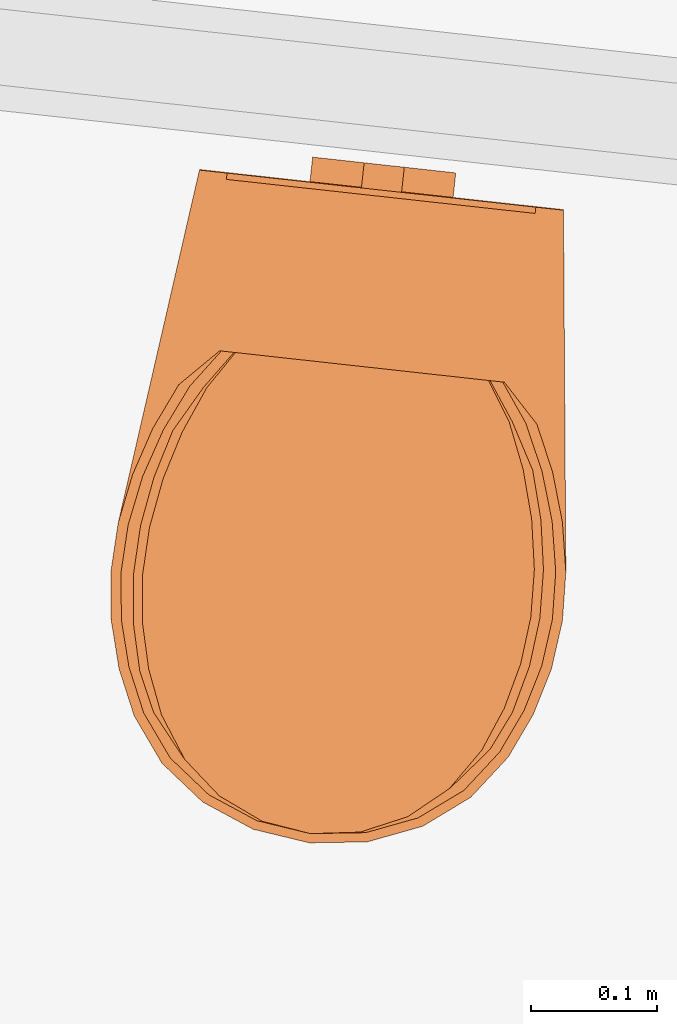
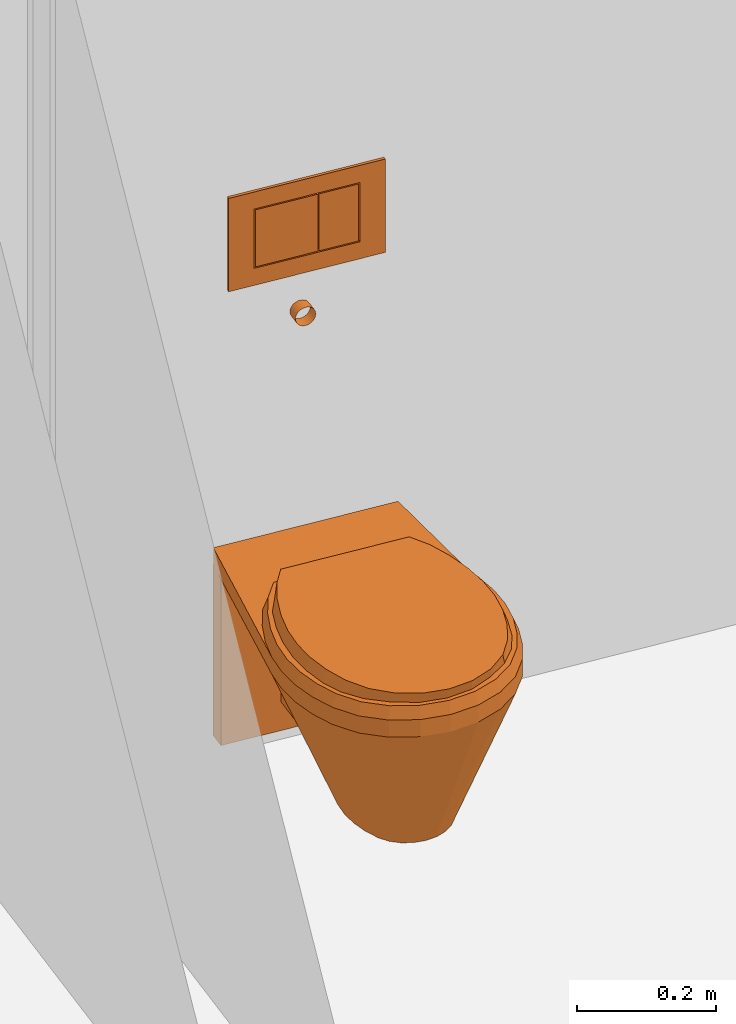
# One storey, part 69 of 79: 1 proxy.
"""IFC2X3 building model written with IfcOpenShell, lengths in metres."""

from ifc_helpers import new_model, entity, si_unit, converted_unit, derived_unit, money_unit, direction, frame, origin_with_axes, place, context, subcontext, project, spatial, open_shell, faceted_brep, surface_model, material, type_object, element, save


model = new_model("IFC2X3")

# Units and contexts
model_context = context("Model", 3, precision=1e-05, world=origin_with_axes(), true_north=direction((0.0, 1.0)))
body_context = subcontext(model_context, "Body", "Model", "MODEL_VIEW")
ifc_project = project(units=[si_unit("LENGTHUNIT", "METRE"), si_unit("AREAUNIT", "SQUARE_METRE"), si_unit("VOLUMEUNIT", "CUBIC_METRE"), converted_unit("PLANEANGLEUNIT", "DEGREE", entity("IfcPlaneAngleMeasure", 0.0174532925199), si_unit("PLANEANGLEUNIT", "RADIAN"), dimensions=[0, 0, 0, 0, 0, 0, 0]), money_unit("CHF"), converted_unit("TIMEUNIT", "Year", entity("IfcTimeMeasure", 31556926.0), si_unit("TIMEUNIT", "SECOND"), dimensions=[0, 0, 1, 0, 0, 0, 0]), si_unit("MASSUNIT", "GRAM", prefix="KILO"), si_unit("THERMODYNAMICTEMPERATUREUNIT", "DEGREE_CELSIUS"), si_unit("LUMINOUSINTENSITYUNIT", "LUMEN"), si_unit("ENERGYUNIT", "JOULE", prefix="MEGA"), derived_unit("THERMALCONDUCTANCEUNIT", [(si_unit("POWERUNIT", "WATT"), 1), (si_unit("LENGTHUNIT", "METRE"), -1), (si_unit("THERMODYNAMICTEMPERATUREUNIT", "KELVIN"), -1)]), derived_unit("SPECIFICHEATCAPACITYUNIT", [(si_unit("ENERGYUNIT", "JOULE"), 1), (si_unit("MASSUNIT", "GRAM", prefix="KILO"), -1), (si_unit("THERMODYNAMICTEMPERATUREUNIT", "KELVIN"), -1)]), derived_unit("MASSDENSITYUNIT", [(si_unit("MASSUNIT", "GRAM", prefix="KILO"), 1), (si_unit("VOLUMEUNIT", "CUBIC_METRE"), -1)])], contexts=[model_context])

# Site, building, storey
site_placement = place(None, frame((0.0, 0.0, 0.0), z_axis=(0.0, 0.0, 1.0), x_axis=(-0.177771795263, -0.984071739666, 0.0)))
site = spatial("IfcSite", under=ifc_project, at=site_placement, Name="Site", CompositionType="ELEMENT")
building_placement = place(site_placement, origin_with_axes())
building = spatial("IfcBuilding", under=site, at=building_placement, Name="Bâtiment", CompositionType="ELEMENT")
storey_placement = place(building_placement, origin_with_axes())
storey = spatial("IfcBuildingStorey", under=building, at=storey_placement, Name="RDC", CompositionType="ELEMENT", Elevation=0.0)

# Proxy
ifc_material = material(Name="Matériau de construction IFC")
building_element_proxy_type = type_object("IfcBuildingElementProxyType", Name="WC 21", PredefinedType="NOTDEFINED")
proxy_placement = place(storey_placement, frame((103.536502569, -150.019253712, -0.00175522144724), z_axis=(0.0, 0.0, 1.0), x_axis=(-0.0688268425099, 0.997628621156, 0.0)))
element("IfcBuildingElementProxy", 1, at=proxy_placement, inside=storey, type_object=building_element_proxy_type, material=ifc_material, Name="WC-hall", context=body_context, shape_type="SurfaceModel", body=[
    surface_model("IfcShellBasedSurfaceModel", [(0.0, 0.0, 0.739), (-0.00414110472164, 0.0, 0.739545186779), (-0.00414110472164, 0.02, 0.739545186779), (0.0, 0.02, 0.739), (-0.008, 0.0, 0.741143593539), (-0.008, 0.02, 0.741143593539), (0.00414110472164, 0.0, 0.739545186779), (0.00414110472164, 0.02, 0.739545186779), (-0.011313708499, 0.0, 0.743686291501), (-0.011313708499, 0.02, 0.743686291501), (0.008, 0.0, 0.741143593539), (0.008, 0.02, 0.741143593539), (-0.0138564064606, 0.0, 0.747), (-0.0138564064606, 0.02, 0.747), (0.011313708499, 0.0, 0.743686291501), (0.011313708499, 0.02, 0.743686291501), (-0.0154548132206, 0.0, 0.750858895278), (-0.0154548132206, 0.02, 0.750858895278), (0.0138564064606, 0.0, 0.747), (0.0138564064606, 0.02, 0.747), (-0.016, 0.0, 0.755), (-0.016, 0.02, 0.755), (0.0154548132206, 0.0, 0.750858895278), (0.0154548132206, 0.02, 0.750858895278), (-0.0154548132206, 0.0, 0.759141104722), (-0.0154548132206, 0.02, 0.759141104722), (0.016, 0.0, 0.755), (0.016, 0.02, 0.755), (-0.0138564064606, 0.0, 0.763), (-0.0138564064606, 0.02, 0.763), (0.0154548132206, 0.0, 0.759141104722), (0.0154548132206, 0.02, 0.759141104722), (-0.011313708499, 0.0, 0.766313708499), (-0.011313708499, 0.02, 0.766313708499), (0.0138564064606, 0.0, 0.763), (0.0138564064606, 0.02, 0.763), (-0.008, 0.0, 0.768856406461), (-0.008, 0.02, 0.768856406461), (0.011313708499, 0.0, 0.766313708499), (0.011313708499, 0.02, 0.766313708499), (-0.00414110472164, 0.0, 0.770454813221), (-0.00414110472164, 0.02, 0.770454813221), (0.008, 0.0, 0.768856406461), (0.008, 0.02, 0.768856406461), (0.0, 0.0, 0.771), (0.0, 0.02, 0.771), (0.00414110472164, 0.0, 0.770454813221), (0.00414110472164, 0.02, 0.770454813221)], [open_shell([[[0, 1, 2, 3]], [[1, 4, 5, 2]], [[6, 0, 3, 7]], [[4, 8, 9, 5]], [[10, 6, 7, 11]], [[8, 12, 13, 9]], [[14, 10, 11, 15]], [[12, 16, 17, 13]], [[18, 14, 15, 19]], [[16, 20, 21, 17]], [[22, 18, 19, 23]], [[20, 24, 25, 21]], [[26, 22, 23, 27]], [[24, 28, 29, 25]], [[30, 26, 27, 31]], [[28, 32, 33, 29]], [[34, 30, 31, 35]], [[32, 36, 37, 33]], [[38, 34, 35, 39]], [[36, 40, 41, 37]], [[42, 38, 39, 43]], [[40, 44, 45, 41]], [[46, 42, 43, 47]], [[44, 46, 47, 45]]])]),
    surface_model("IfcShellBasedSurfaceModel", [(0.0, 0.0, 0.148128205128), (-0.0147526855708, 0.0, 0.15007043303), (-0.0147526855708, 0.02, 0.15007043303), (0.0, 0.02, 0.148128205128), (-0.0285, 0.0, 0.155764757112), (-0.0285, 0.02, 0.155764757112), (0.0147526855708, 0.0, 0.15007043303), (0.0147526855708, 0.02, 0.15007043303), (-0.0403050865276, 0.0, 0.1648231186), (-0.0403050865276, 0.02, 0.1648231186), (0.0285, 0.0, 0.155764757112), (0.0285, 0.02, 0.155764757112), (-0.0493634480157, 0.0, 0.176628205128), (-0.0493634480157, 0.02, 0.176628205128), (0.0403050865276, 0.0, 0.1648231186), (0.0403050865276, 0.02, 0.1648231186), (-0.0550577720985, 0.0, 0.190375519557), (-0.0550577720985, 0.02, 0.190375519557), (0.0493634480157, 0.0, 0.176628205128), (0.0493634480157, 0.02, 0.176628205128), (-0.057, 0.0, 0.205128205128), (-0.057, 0.02, 0.205128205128), (0.0550577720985, 0.0, 0.190375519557), (0.0550577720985, 0.02, 0.190375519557), (-0.0550577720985, 0.0, 0.219880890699), (-0.0550577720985, 0.02, 0.219880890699), (0.057, 0.0, 0.205128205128), (0.057, 0.02, 0.205128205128), (-0.0493634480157, 0.0, 0.233628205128), (-0.0493634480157, 0.02, 0.233628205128), (0.0550577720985, 0.0, 0.219880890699), (0.0550577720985, 0.02, 0.219880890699), (-0.0403050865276, 0.0, 0.245433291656), (-0.0403050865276, 0.02, 0.245433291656), (0.0493634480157, 0.0, 0.233628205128), (0.0493634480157, 0.02, 0.233628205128), (-0.0285, 0.0, 0.254491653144), (-0.0285, 0.02, 0.254491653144), (0.0403050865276, 0.0, 0.245433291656), (0.0403050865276, 0.02, 0.245433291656), (-0.0147526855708, 0.0, 0.260185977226), (-0.0147526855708, 0.02, 0.260185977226), (0.0285, 0.0, 0.254491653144), (0.0285, 0.02, 0.254491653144), (0.0, 0.0, 0.262128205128), (0.0, 0.02, 0.262128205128), (0.0147526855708, 0.0, 0.260185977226), (0.0147526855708, 0.02, 0.260185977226)], [open_shell([[[0, 1, 2, 3]], [[1, 4, 5, 2]], [[6, 0, 3, 7]], [[4, 8, 9, 5]], [[10, 6, 7, 11]], [[8, 12, 13, 9]], [[14, 10, 11, 15]], [[12, 16, 17, 13]], [[18, 14, 15, 19]], [[16, 20, 21, 17]], [[22, 18, 19, 23]], [[20, 24, 25, 21]], [[26, 22, 23, 27]], [[24, 28, 29, 25]], [[30, 26, 27, 31]], [[28, 32, 33, 29]], [[34, 30, 31, 35]], [[32, 36, 37, 33]], [[38, 34, 35, 39]], [[36, 40, 41, 37]], [[42, 38, 39, 43]], [[40, 44, 45, 41]], [[46, 42, 43, 47]], [[44, 46, 47, 45]]])]),
    faceted_brep([(0.145057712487, -0.0272244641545, 0.06), (-0.145057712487, -0.0272244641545, 0.06), (-0.145057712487, 0.0004595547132, 0.06), (0.145057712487, 0.0004595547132, 0.06), (0.145057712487, -0.0272244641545, 0.36), (-0.145057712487, -0.0272244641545, 0.36), (-0.145057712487, 0.0004595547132, 0.36), (0.145057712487, 0.0004595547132, 0.36)], [[[0, 1, 2, 3]], [[1, 0, 4, 5]], [[2, 1, 5, 6]], [[3, 2, 6, 7]], [[0, 3, 7, 4]], [[5, 4, 7, 6]]]),
    faceted_brep([(0.0, -0.0658279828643, 0.36), (0.0300581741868, -0.0690301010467, 0.36), (0.0503672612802, -0.0757649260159, 0.36), (0.0503672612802, -0.0272244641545, 0.36), (-0.0503672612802, -0.0272244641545, 0.36), (-0.0503672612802, -0.0757649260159, 0.36), (-0.0300581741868, -0.0690301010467, 0.36), (0.0140927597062, -0.0974542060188, 0.11), (0.0503672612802, -0.0848914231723, 0.295928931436), (0.0267329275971, -0.103538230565, 0.11), (0.0503672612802, -0.123434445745, 0.140834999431), (0.0503672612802, -0.151232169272, 0.11), (0.0503672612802, -0.0272244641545, 0.11), (0.0503672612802, -0.0913032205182, 0.267009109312), (0.0503672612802, -0.107345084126, 0.182796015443), (0.0503672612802, -0.119007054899, 0.156474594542), (-0.0503672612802, -0.0272244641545, 0.11), (-0.0503672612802, -0.0819473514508, 0.314161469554), (-0.0503672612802, -0.151232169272, 0.11), (-0.0503672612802, -0.127176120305, 0.131313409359), (-0.0503672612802, -0.123434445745, 0.140834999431), (-0.0503672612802, -0.113127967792, 0.160496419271), (-0.0503672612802, -0.107345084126, 0.182796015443), (-0.0503672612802, -0.099438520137, 0.213462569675), (-0.0503672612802, -0.0848914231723, 0.295928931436), (-0.0140927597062, -0.0974542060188, 0.11), (0.0, -0.0953539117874, 0.11), (0.0366159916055, -0.112978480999, 0.11), (0.0427235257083, -0.124801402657, 0.11), (-0.0427235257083, -0.124801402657, 0.11), (-0.0267329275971, -0.103538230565, 0.11), (-0.0366159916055, -0.112978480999, 0.11)], [[[0, 1, 2, 3, 4, 5, 6]], [[1, 0, 7]], [[8, 2, 1, 9]], [[10, 11, 12, 3, 2, 8, 13, 14, 15]], [[3, 12, 16, 4]], [[17, 5, 4, 16, 18, 19, 20, 21, 22, 23, 24]], [[6, 5, 17, 25]], [[0, 6, 26]], [[26, 7, 0]], [[7, 9, 1]], [[13, 8, 9, 27]], [[11, 10, 28]], [[29, 18, 16, 12, 11, 28, 27, 9, 7, 26, 25, 30, 31]], [[14, 13, 27]], [[15, 14, 27, 28]], [[10, 15, 28]], [[18, 29, 19]], [[20, 19, 29]], [[29, 31, 21, 20]], [[22, 21, 31]], [[31, 30, 23, 22]], [[24, 23, 30]], [[30, 25, 17, 24]], [[25, 26, 6]]]),
    surface_model("IfcShellBasedSurfaceModel", [(0.0181966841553, -0.426233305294, 0.11), (0.0350002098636, -0.419424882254, 0.11), (0.0876158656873, -0.497127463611, 0.36), (0.0, -0.428561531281, 0.11), (-0.0181966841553, -0.426233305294, 0.11), (-0.0350002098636, -0.419424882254, 0.11), (-0.0491231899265, -0.408658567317, 0.11), (-0.0594847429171, -0.394759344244, 0.11), (-0.0701797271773, -0.370888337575, 0.11), (-0.0770850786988, -0.345873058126, 0.11), (-0.0800627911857, -0.320214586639, 0.11), (-0.0790534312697, -0.294427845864, 0.11), (-0.0730013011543, -0.251517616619, 0.11), (-0.064918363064, -0.208889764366, 0.11), (-0.0548187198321, -0.166624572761, 0.11), (-0.0427235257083, -0.124801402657, 0.11), (-0.0366159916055, -0.112978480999, 0.11), (-0.0267329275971, -0.103538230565, 0.11), (-0.0140927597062, -0.0974542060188, 0.11), (0.0, -0.0953539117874, 0.11), (0.0140927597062, -0.0974542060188, 0.11), (0.0267329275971, -0.103538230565, 0.11), (0.0366159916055, -0.112978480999, 0.11), (0.0427235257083, -0.124801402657, 0.11), (0.0548187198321, -0.166624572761, 0.11), (0.064918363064, -0.208889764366, 0.11), (0.0730013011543, -0.251517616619, 0.11), (0.0790534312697, -0.294427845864, 0.11), (0.0800627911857, -0.320213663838, 0.11), (0.0770850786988, -0.345873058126, 0.11), (0.0701797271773, -0.370888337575, 0.11), (0.0594847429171, -0.394759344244, 0.11), (0.0491231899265, -0.408658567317, 0.11), (0.12297066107, -0.470176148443, 0.36), (0.0455521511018, -0.514170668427, 0.36), (0.0, -0.52, 0.36), (-0.0455521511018, -0.514170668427, 0.36), (-0.0876158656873, -0.497127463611, 0.36), (-0.12297066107, -0.470176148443, 0.36), (-0.14890980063, -0.435381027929, 0.36), (-0.164971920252, -0.399527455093, 0.36), (-0.17534455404, -0.361954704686, 0.36), (-0.179817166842, -0.323416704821, 0.36), (-0.178300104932, -0.284685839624, 0.36), (-0.169520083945, -0.238917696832, 0.36), (-0.154120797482, -0.194641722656, 0.36), (-0.132382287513, -0.152656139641, 0.36), (-0.104696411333, -0.113718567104, 0.36), (-0.083841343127, -0.0936319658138, 0.36), (-0.0585116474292, -0.0784657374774, 0.36), (-0.0300581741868, -0.0690301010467, 0.36), (0.0, -0.0658279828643, 0.36), (0.0300581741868, -0.0690301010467, 0.36), (0.0585116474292, -0.0784657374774, 0.36), (0.083841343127, -0.0936319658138, 0.36), (0.104696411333, -0.113718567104, 0.36), (0.132382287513, -0.152656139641, 0.36), (0.154120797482, -0.194641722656, 0.36), (0.169520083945, -0.238918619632, 0.36), (0.178300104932, -0.284685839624, 0.36), (0.179817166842, -0.323416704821, 0.36), (0.17534455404, -0.361954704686, 0.36), (0.164972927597, -0.399527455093, 0.36), (0.14890980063, -0.435381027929, 0.36)], [open_shell([[[0, 1, 2]], [[0, 3, 4, 5, 6, 7, 8, 9, 10, 11, 12, 13, 14, 15, 16, 17, 18, 19, 20, 21, 22, 23, 24, 25, 26, 27, 28, 29, 30, 31, 32, 1]], [[1, 33, 2]], [[0, 2, 34]], [[3, 0, 34]], [[4, 3, 35]], [[5, 4, 36]], [[6, 5, 37]], [[7, 6, 38]], [[8, 7, 39]], [[9, 8, 40]], [[10, 9, 41]], [[11, 10, 42]], [[12, 11, 43]], [[13, 12, 44]], [[14, 13, 45]], [[15, 14, 46]], [[16, 15, 47]], [[17, 16, 48]], [[18, 17, 49]], [[19, 18, 50]], [[20, 19, 51]], [[21, 20, 52]], [[22, 21, 53]], [[23, 22, 54]], [[24, 23, 55]], [[25, 24, 56]], [[26, 25, 57]], [[27, 26, 58]], [[28, 27, 59]], [[29, 28, 60]], [[30, 29, 61]], [[31, 30, 62]], [[32, 31, 63]], [[1, 32, 33]], [[3, 34, 35]], [[4, 35, 36]], [[5, 36, 37]], [[6, 37, 38]], [[7, 38, 39]], [[8, 39, 40]], [[9, 40, 41]], [[10, 41, 42]], [[11, 42, 43]], [[12, 43, 44]], [[13, 44, 45]], [[14, 45, 46]], [[15, 46, 47]], [[16, 47, 48]], [[17, 48, 49]], [[18, 49, 50]], [[19, 50, 51]], [[20, 51, 52]], [[21, 52, 53]], [[22, 53, 54]], [[23, 54, 55]], [[24, 55, 56]], [[25, 56, 57]], [[26, 57, 58]], [[27, 58, 59]], [[28, 59, 60]], [[29, 60, 61]], [[30, 61, 62]], [[31, 62, 63]], [[32, 63, 33]]])]),
    faceted_brep([(-0.178300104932, -0.284685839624, 0.36), (-0.179817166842, -0.323416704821, 0.36), (-0.179817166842, -0.323416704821, 0.39), (-0.178300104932, -0.284685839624, 0.39), (-0.145001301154, 0.0, 0.36), (0.145003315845, 0.0, 0.36), (0.178300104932, -0.284685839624, 0.36), (0.179817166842, -0.323416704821, 0.36), (0.17534455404, -0.361954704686, 0.36), (0.164972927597, -0.399527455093, 0.36), (0.14890980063, -0.435381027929, 0.36), (0.12297066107, -0.470176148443, 0.36), (0.0876158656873, -0.497127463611, 0.36), (0.0455521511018, -0.514170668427, 0.36), (0.0, -0.52, 0.36), (-0.0455521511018, -0.514170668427, 0.36), (-0.0876158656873, -0.497127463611, 0.36), (-0.12297066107, -0.470176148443, 0.36), (-0.14890980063, -0.435381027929, 0.36), (-0.164971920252, -0.399527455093, 0.36), (-0.17534455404, -0.361954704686, 0.36), (0.148630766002, -0.287598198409, 0.36), (0.133085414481, -0.239834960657, 0.36), (0.0999105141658, -0.200331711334, 0.36), (0.0534990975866, -0.174321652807, 0.36), (0.0, -0.165251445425, 0.36), (-0.0534990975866, -0.174321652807, 0.36), (-0.0999105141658, -0.200331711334, 0.36), (-0.133085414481, -0.239834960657, 0.36), (-0.148630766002, -0.287598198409, 0.36), (-0.149995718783, -0.322458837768, 0.36), (-0.145969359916, -0.357146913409, 0.36), (-0.13663429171, -0.390965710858, 0.36), (-0.122175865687, -0.423236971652, 0.36), (-0.100894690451, -0.451785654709, 0.36), (-0.0718871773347, -0.47389872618, 0.36), (-0.0373745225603, -0.48788192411, 0.36), (0.0, -0.49266479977, 0.36), (0.0373745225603, -0.48788192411, 0.36), (0.0718871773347, -0.47389872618, 0.36), (0.100894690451, -0.451785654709, 0.36), (0.122175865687, -0.423236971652, 0.36), (0.13663429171, -0.390965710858, 0.36), (0.145969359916, -0.357146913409, 0.36), (0.149995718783, -0.322458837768, 0.36), (-0.17534455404, -0.361954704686, 0.39), (-0.164971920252, -0.399527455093, 0.39), (-0.14890980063, -0.435381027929, 0.39), (-0.12297066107, -0.470176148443, 0.39), (-0.0876158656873, -0.497127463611, 0.39), (-0.0455521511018, -0.514170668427, 0.39), (0.0, -0.52, 0.39), (0.0455521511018, -0.514170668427, 0.39), (0.0876158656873, -0.497127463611, 0.39), (0.12297066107, -0.470176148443, 0.39), (0.14890980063, -0.435381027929, 0.39), (0.164972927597, -0.399527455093, 0.39), (0.17534455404, -0.361954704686, 0.39), (0.179817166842, -0.323416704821, 0.39), (0.178300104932, -0.284685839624, 0.39), (0.145003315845, 0.0, 0.39), (-0.145001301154, 0.0, 0.39), (0.148630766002, -0.287598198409, 0.39), (0.149995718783, -0.322458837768, 0.39), (0.145969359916, -0.357146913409, 0.39), (0.13663429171, -0.390965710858, 0.39), (0.122175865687, -0.423236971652, 0.39), (0.100894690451, -0.451785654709, 0.39), (0.0718871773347, -0.47389872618, 0.39), (0.0373745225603, -0.48788192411, 0.39), (0.0, -0.49266479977, 0.39), (-0.0373745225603, -0.48788192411, 0.39), (-0.0718871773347, -0.47389872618, 0.39), (-0.100894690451, -0.451785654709, 0.39), (-0.122175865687, -0.423236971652, 0.39), (-0.13663429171, -0.390965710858, 0.39), (-0.145969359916, -0.357146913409, 0.39), (-0.149995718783, -0.322458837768, 0.39), (-0.148630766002, -0.287598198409, 0.39), (-0.133085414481, -0.239834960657, 0.39), (-0.0999105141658, -0.200331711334, 0.39), (-0.0534990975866, -0.174321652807, 0.39), (0.0, -0.165251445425, 0.39), (0.0534990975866, -0.174321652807, 0.39), (0.0999105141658, -0.200331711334, 0.39), (0.133085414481, -0.239834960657, 0.39)], [[[0, 1, 2, 3]], [[0, 4, 5, 6, 7, 8, 9, 10, 11, 12, 13, 14, 15, 16, 17, 18, 19, 20, 1], [21, 22, 23, 24, 25, 26, 27, 28, 29, 30, 31, 32, 33, 34, 35, 36, 37, 38, 39, 40, 41, 42, 43, 44]], [[1, 20, 45, 2]], [[3, 2, 45, 46, 47, 48, 49, 50, 51, 52, 53, 54, 55, 56, 57, 58, 59, 60, 61], [62, 63, 64, 65, 66, 67, 68, 69, 70, 71, 72, 73, 74, 75, 76, 77, 78, 79, 80, 81, 82, 83, 84, 85]], [[4, 0, 3, 61]], [[5, 4, 61, 60]], [[6, 5, 60, 59]], [[7, 6, 59, 58]], [[8, 7, 58, 57]], [[9, 8, 57, 56]], [[10, 9, 56, 55]], [[11, 10, 55, 54]], [[12, 11, 54, 53]], [[13, 12, 53, 52]], [[14, 13, 52, 51]], [[15, 14, 51, 50]], [[16, 15, 50, 49]], [[17, 16, 49, 48]], [[18, 17, 48, 47]], [[19, 18, 47, 46]], [[20, 19, 46, 45]], [[22, 21, 62, 85]], [[23, 22, 85, 84]], [[24, 23, 84, 83]], [[25, 24, 83, 82]], [[26, 25, 82, 81]], [[27, 26, 81, 80]], [[28, 27, 80, 79]], [[29, 28, 79, 78]], [[30, 29, 78, 77]], [[31, 30, 77, 76]], [[32, 31, 76, 75]], [[33, 32, 75, 74]], [[34, 33, 74, 73]], [[35, 34, 73, 72]], [[36, 35, 72, 71]], [[37, 36, 71, 70]], [[38, 37, 70, 69]], [[39, 38, 69, 68]], [[40, 39, 68, 67]], [[41, 40, 67, 66]], [[42, 41, 66, 65]], [[43, 42, 65, 64]], [[44, 43, 64, 63]], [[21, 44, 63, 62]]]),
    surface_model("IfcShellBasedSurfaceModel", [(0.0172868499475, -0.432466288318, 0.21), (0.0332501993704, -0.427155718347, 0.21), (0.0832350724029, -0.487763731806, 0.36), (0.0, -0.434282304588, 0.21), (-0.0172868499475, -0.432466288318, 0.21), (-0.0332501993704, -0.427155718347, 0.21), (-0.0466670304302, -0.418757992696, 0.21), (-0.0565105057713, -0.407916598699, 0.21), (-0.0666707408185, -0.389297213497, 0.21), (-0.0732308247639, -0.369785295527, 0.21), (-0.0760596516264, -0.349771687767, 0.21), (-0.0751007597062, -0.329658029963, 0.21), (-0.0693512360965, -0.296188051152, 0.21), (-0.0616724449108, -0.262938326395, 0.21), (-0.0520777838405, -0.229971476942, 0.21), (-0.0405873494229, -0.197349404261, 0.21), (-0.0347851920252, -0.188127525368, 0.21), (-0.0253962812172, -0.18076413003, 0.21), (-0.0133881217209, -0.176018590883, 0.21), (0.0, -0.174380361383, 0.21), (0.0133881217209, -0.176018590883, 0.21), (0.0253962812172, -0.18076413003, 0.21), (0.0347851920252, -0.188127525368, 0.21), (0.0405873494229, -0.197349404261, 0.21), (0.0520777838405, -0.229971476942, 0.21), (0.0616724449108, -0.262938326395, 0.21), (0.0693512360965, -0.296188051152, 0.21), (0.0751007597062, -0.329658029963, 0.21), (0.0760596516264, -0.349770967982, 0.21), (0.0732308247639, -0.369785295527, 0.21), (0.0666707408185, -0.389297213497, 0.21), (0.0565105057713, -0.407916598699, 0.21), (0.0466670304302, -0.418757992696, 0.21), (0.116822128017, -0.466741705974, 0.36), (0.0432745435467, -0.501057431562, 0.36), (0.0, -0.505604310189, 0.36), (-0.0432745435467, -0.501057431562, 0.36), (-0.0832350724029, -0.487763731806, 0.36), (-0.116822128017, -0.466741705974, 0.36), (-0.141464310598, -0.439601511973, 0.36), (-0.156723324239, -0.411635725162, 0.36), (-0.166577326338, -0.382328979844, 0.36), (-0.170826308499, -0.352269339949, 0.36), (-0.169385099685, -0.322059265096, 0.36), (-0.161044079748, -0.286360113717, 0.36), (-0.146414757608, -0.25182485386, 0.36), (-0.125763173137, -0.219076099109, 0.36), (-0.099461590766, -0.18870479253, 0.36), (-0.0796492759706, -0.173037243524, 0.36), (-0.0555860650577, -0.161207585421, 0.36), (-0.0285552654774, -0.153847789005, 0.36), (0.0, -0.151350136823, 0.36), (0.0285552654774, -0.153847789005, 0.36), (0.0555860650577, -0.161207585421, 0.36), (0.0796492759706, -0.173037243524, 0.36), (0.099461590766, -0.18870479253, 0.36), (0.125763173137, -0.219076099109, 0.36), (0.146414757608, -0.25182485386, 0.36), (0.161044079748, -0.286360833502, 0.36), (0.169385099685, -0.322059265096, 0.36), (0.170826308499, -0.352269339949, 0.36), (0.166577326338, -0.382328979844, 0.36), (0.156724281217, -0.411635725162, 0.36), (0.141464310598, -0.439601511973, 0.36)], [open_shell([[[0, 1, 2]], [[0, 3, 4, 5, 6, 7, 8, 9, 10, 11, 12, 13, 14, 15, 16, 17, 18, 19, 20, 21, 22, 23, 24, 25, 26, 27, 28, 29, 30, 31, 32, 1]], [[1, 33, 2]], [[0, 2, 34]], [[3, 0, 34]], [[4, 3, 35]], [[5, 4, 36]], [[6, 5, 37]], [[7, 6, 38]], [[8, 7, 39]], [[9, 8, 40]], [[10, 9, 41]], [[11, 10, 42]], [[12, 11, 43]], [[13, 12, 44]], [[14, 13, 45]], [[15, 14, 46]], [[16, 15, 47]], [[17, 16, 48]], [[18, 17, 49]], [[19, 18, 50]], [[20, 19, 51]], [[21, 20, 52]], [[22, 21, 53]], [[23, 22, 54]], [[24, 23, 55]], [[25, 24, 56]], [[26, 25, 57]], [[27, 26, 58]], [[28, 27, 59]], [[29, 28, 60]], [[30, 29, 61]], [[31, 30, 62]], [[32, 31, 63]], [[1, 32, 33]], [[3, 34, 35]], [[4, 35, 36]], [[5, 36, 37]], [[6, 37, 38]], [[7, 38, 39]], [[8, 39, 40]], [[9, 40, 41]], [[10, 41, 42]], [[11, 42, 43]], [[12, 43, 44]], [[13, 44, 45]], [[14, 45, 46]], [[15, 46, 47]], [[16, 47, 48]], [[17, 48, 49]], [[18, 49, 50]], [[19, 50, 51]], [[20, 51, 52]], [[21, 52, 53]], [[22, 53, 54]], [[23, 54, 55]], [[24, 55, 56]], [[25, 56, 57]], [[26, 57, 58]], [[27, 58, 59]], [[28, 59, 60]], [[29, 60, 61]], [[30, 61, 62]], [[31, 62, 63]], [[32, 63, 33]]])]),
    faceted_brep([(0.0, -0.52, 0.39), (-0.0455521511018, -0.514170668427, 0.39), (-0.0876158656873, -0.497127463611, 0.39), (-0.12297066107, -0.470176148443, 0.39), (-0.14890980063, -0.435381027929, 0.39), (-0.164971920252, -0.399527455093, 0.39), (-0.17534455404, -0.361954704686, 0.39), (-0.179817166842, -0.323416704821, 0.39), (-0.178300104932, -0.284685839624, 0.39), (-0.171222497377, -0.245538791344, 0.39), (-0.159296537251, -0.207391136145, 0.39), (-0.142678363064, -0.17074672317, 0.39), (-0.113341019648, -0.140508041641, 0.39), (0.113341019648, -0.140508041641, 0.39), (0.142678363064, -0.17074672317, 0.39), (0.159296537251, -0.207391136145, 0.39), (0.171222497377, -0.245538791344, 0.39), (0.178300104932, -0.284685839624, 0.39), (0.179817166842, -0.323416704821, 0.39), (0.17534455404, -0.361954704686, 0.39), (0.164972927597, -0.399527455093, 0.39), (0.14890980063, -0.435381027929, 0.39), (0.12297066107, -0.470176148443, 0.39), (0.0876158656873, -0.497127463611, 0.39), (0.0455521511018, -0.514170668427, 0.39), (0.0895648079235, -0.38256804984, 0.39), (0.0972111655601, -0.354970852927, 0.39), (0.100507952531, -0.326669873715, 0.39), (0.0993746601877, -0.297832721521, 0.39), (0.093592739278, -0.266308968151, 0.39), (0.0836525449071, -0.235242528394, 0.39), (0.0707188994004, -0.207504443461, 0.39), (-0.0707185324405, -0.207504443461, 0.39), (-0.0836526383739, -0.235242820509, 0.39), (-0.093592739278, -0.266308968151, 0.39), (-0.0993746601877, -0.297832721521, 0.39), (-0.100507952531, -0.326669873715, 0.39), (-0.0972111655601, -0.354970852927, 0.39), (-0.0895648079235, -0.38256804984, 0.39), (-0.0786741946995, -0.406786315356, 0.39), (-0.0638419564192, -0.426610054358, 0.39), (-0.0455257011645, -0.440520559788, 0.39), (-0.0236836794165, -0.449337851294, 0.39), (0.0, -0.452357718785, 0.39), (0.0236836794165, -0.449337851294, 0.39), (0.0455257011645, -0.440520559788, 0.39), (0.0638419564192, -0.426610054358, 0.39), (0.0786741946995, -0.406786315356, 0.39), (0.0, -0.512659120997, 0.41), (-0.04335613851, -0.507110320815, 0.41), (-0.0833920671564, -0.490888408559, 0.41), (-0.117042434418, -0.465237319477, 0.41), (-0.141729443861, -0.432119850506, 0.41), (-0.157361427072, -0.397228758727, 0.41), (-0.167455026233, -0.360663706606, 0.41), (-0.171807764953, -0.323159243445, 0.41), (-0.170332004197, -0.285468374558, 0.41), (-0.163121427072, -0.246009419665, 0.41), (-0.150879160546, -0.207606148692, 0.41), (-0.133777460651, -0.170793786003, 0.41), (-0.112053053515, -0.140508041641, 0.41), (0.112053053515, -0.140508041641, 0.41), (0.133777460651, -0.170792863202, 0.41), (0.150879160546, -0.207606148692, 0.41), (0.163121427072, -0.246009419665, 0.41), (0.170332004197, -0.285468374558, 0.41), (0.171807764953, -0.323159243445, 0.41), (0.167455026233, -0.360663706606, 0.41), (0.157361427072, -0.397228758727, 0.41), (0.141729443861, -0.432119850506, 0.41), (0.117042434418, -0.465237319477, 0.41), (0.0833920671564, -0.490888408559, 0.41), (0.04335613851, -0.507110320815, 0.41), (0.0895648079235, -0.38256804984, 0.41), (0.0972111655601, -0.354970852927, 0.41), (0.100507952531, -0.326669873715, 0.41), (0.0993746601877, -0.297832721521, 0.41), (0.093592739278, -0.266308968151, 0.41), (0.0836525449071, -0.235242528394, 0.41), (0.0707188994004, -0.207504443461, 0.41), (-0.0707185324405, -0.207504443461, 0.41), (-0.0836526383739, -0.235242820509, 0.41), (-0.093592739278, -0.266308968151, 0.41), (-0.0993746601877, -0.297832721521, 0.41), (-0.100507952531, -0.326669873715, 0.41), (-0.0972111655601, -0.354970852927, 0.41), (-0.0895648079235, -0.38256804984, 0.41), (-0.0786741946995, -0.406786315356, 0.41), (-0.0638419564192, -0.426610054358, 0.41), (-0.0455257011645, -0.440520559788, 0.41), (-0.0236836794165, -0.449337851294, 0.41), (0.0, -0.452357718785, 0.41), (0.0236836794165, -0.449337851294, 0.41), (0.0455257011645, -0.440520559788, 0.41), (0.0638419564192, -0.426610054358, 0.41), (0.0786741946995, -0.406786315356, 0.41)], [[[0, 1, 2, 3, 4, 5, 6, 7, 8, 9, 10, 11, 12, 13, 14, 15, 16, 17, 18, 19, 20, 21, 22, 23, 24], [25, 26, 27, 28, 29, 30, 31, 32, 33, 34, 35, 36, 37, 38, 39, 40, 41, 42, 43, 44, 45, 46, 47]], [[1, 0, 48]], [[2, 1, 49]], [[3, 2, 50]], [[4, 3, 51]], [[5, 4, 52]], [[6, 5, 53]], [[6, 54, 55, 7]], [[8, 7, 55]], [[9, 8, 56]], [[10, 9, 57]], [[11, 10, 58]], [[12, 11, 59]], [[12, 60, 61, 13]], [[14, 13, 61]], [[15, 14, 62]], [[16, 15, 63]], [[17, 16, 64]], [[18, 17, 65]], [[18, 66, 67, 19]], [[20, 19, 67]], [[20, 68, 69, 21]], [[22, 21, 69]], [[23, 22, 70]], [[24, 23, 71]], [[0, 24, 72]], [[73, 74, 26, 25]], [[74, 75, 27, 26]], [[75, 76, 28, 27]], [[76, 77, 29, 28]], [[77, 78, 30, 29]], [[78, 79, 31, 30]], [[79, 80, 32, 31]], [[80, 81, 33, 32]], [[81, 82, 34, 33]], [[82, 83, 35, 34]], [[83, 84, 36, 35]], [[84, 85, 37, 36]], [[85, 86, 38, 37]], [[86, 87, 39, 38]], [[87, 88, 40, 39]], [[88, 89, 41, 40]], [[89, 90, 42, 41]], [[90, 91, 43, 42]], [[91, 92, 44, 43]], [[92, 93, 45, 44]], [[93, 94, 46, 45]], [[94, 95, 47, 46]], [[95, 73, 25, 47]], [[0, 72, 48]], [[1, 48, 49]], [[2, 49, 50]], [[3, 50, 51]], [[4, 51, 52]], [[5, 52, 53]], [[6, 53, 54]], [[54, 53, 52, 51, 50, 49, 48, 72, 71, 70, 69, 68, 67, 66, 65, 64, 63, 62, 61, 60, 59, 58, 57, 56, 55], [77, 76, 75, 74, 73, 95, 94, 93, 92, 91, 90, 89, 88, 87, 86, 85, 84, 83, 82, 81, 80, 79, 78]], [[8, 55, 56]], [[9, 56, 57]], [[10, 57, 58]], [[11, 58, 59]], [[12, 59, 60]], [[14, 61, 62]], [[15, 62, 63]], [[16, 63, 64]], [[17, 64, 65]], [[18, 65, 66]], [[20, 67, 68]], [[22, 69, 70]], [[23, 70, 71]], [[24, 71, 72]]]),
    faceted_brep([(-0.110673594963, -0.459102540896, 0.41), (-0.0788542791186, -0.482362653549, 0.41), (-0.0750528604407, -0.490888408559, 0.43), (-0.134018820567, -0.430767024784, 0.41), (-0.148474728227, -0.399527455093, 0.41), (-0.157810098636, -0.361954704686, 0.41), (-0.161835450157, -0.323416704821, 0.41), (-0.160470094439, -0.284685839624, 0.41), (-0.154100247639, -0.245538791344, 0.41), (-0.143366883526, -0.207391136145, 0.41), (-0.122970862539, -0.17074672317, 0.41), (-0.102006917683, -0.140508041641, 0.41), (0.102006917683, -0.140508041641, 0.41), (0.122970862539, -0.17074672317, 0.41), (0.143366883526, -0.207391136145, 0.41), (0.154100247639, -0.245538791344, 0.41), (0.160470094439, -0.284685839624, 0.41), (0.161835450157, -0.323416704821, 0.41), (0.157810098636, -0.361954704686, 0.41), (0.148475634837, -0.399527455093, 0.41), (0.134018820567, -0.430767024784, 0.41), (0.110673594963, -0.459102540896, 0.41), (0.0788542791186, -0.482362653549, 0.41), (0.0409969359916, -0.500328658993, 0.41), (0.0, -0.506157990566, 0.41), (-0.0409969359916, -0.500328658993, 0.41), (-0.039020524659, -0.507110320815, 0.43), (-0.105338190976, -0.465237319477, 0.43), (-0.127556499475, -0.432119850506, 0.43), (-0.141625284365, -0.397228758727, 0.43), (-0.15070952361, -0.360663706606, 0.43), (-0.154626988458, -0.323159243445, 0.43), (-0.153298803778, -0.285468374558, 0.43), (-0.146809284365, -0.246009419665, 0.43), (-0.135791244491, -0.207606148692, 0.43), (-0.120399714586, -0.170793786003, 0.43), (-0.100847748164, -0.140508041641, 0.43), (0.100847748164, -0.140508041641, 0.43), (0.120399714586, -0.170792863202, 0.43), (0.135791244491, -0.207606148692, 0.43), (0.146809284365, -0.246009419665, 0.43), (0.153298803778, -0.285468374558, 0.43), (0.154626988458, -0.323159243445, 0.43), (0.15070952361, -0.360663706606, 0.43), (0.141625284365, -0.397228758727, 0.43), (0.127556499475, -0.432119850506, 0.43), (0.105338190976, -0.465237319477, 0.43), (0.0750528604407, -0.490888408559, 0.43), (0.039020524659, -0.507110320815, 0.43), (0.0, -0.512659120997, 0.43)], [[[0, 1, 2]], [[0, 3, 4, 5, 6, 7, 8, 9, 10, 11, 12, 13, 14, 15, 16, 17, 18, 19, 20, 21, 22, 23, 24, 25, 1]], [[1, 26, 2]], [[0, 2, 27]], [[3, 0, 27]], [[4, 3, 28]], [[5, 4, 29]], [[6, 5, 30, 31]], [[7, 6, 31]], [[8, 7, 32]], [[9, 8, 33]], [[10, 9, 34]], [[11, 10, 35]], [[12, 11, 36, 37]], [[13, 12, 37]], [[14, 13, 38]], [[15, 14, 39]], [[16, 15, 40]], [[17, 16, 41]], [[18, 17, 42, 43]], [[19, 18, 43]], [[20, 19, 44]], [[21, 20, 45]], [[22, 21, 46]], [[23, 22, 47]], [[24, 23, 48]], [[25, 24, 49]], [[1, 25, 26]], [[27, 2, 26, 49, 48, 47, 46, 45, 44, 43, 42, 41, 40, 39, 38, 37, 36, 35, 34, 33, 32, 31, 30, 29, 28]], [[3, 27, 28]], [[4, 28, 29]], [[5, 29, 30]], [[7, 31, 32]], [[8, 32, 33]], [[9, 33, 34]], [[10, 34, 35]], [[11, 35, 36]], [[13, 37, 38]], [[14, 38, 39]], [[15, 39, 40]], [[16, 40, 41]], [[17, 41, 42]], [[19, 43, 44]], [[20, 44, 45]], [[21, 45, 46]], [[22, 46, 47]], [[23, 47, 48]], [[24, 48, 49]], [[25, 49, 26]]]),
    faceted_brep([(-0.083, 0.0, 0.836), (-0.083, 0.0, 0.97), (-0.083, -0.005, 0.97), (-0.083, -0.005, 0.836), (-0.123, 0.0, 0.836), (-0.123, 0.0, 1.0), (0.123, 0.0, 1.0), (0.123, 0.0, 0.836), (0.083, 0.0, 0.836), (0.083, 0.0, 0.97), (0.083, -0.005, 0.97), (0.083, -0.005, 0.836), (0.123, -0.005, 0.836), (0.123, -0.005, 1.0), (-0.123, -0.005, 1.0), (-0.123, -0.005, 0.836)], [[[0, 1, 2, 3]], [[0, 4, 5, 6, 7, 8, 9, 1]], [[1, 9, 10, 2]], [[3, 2, 10, 11, 12, 13, 14, 15]], [[4, 0, 3, 15]], [[5, 4, 15, 14]], [[6, 5, 14, 13]], [[7, 6, 13, 12]], [[8, 7, 12, 11]], [[9, 8, 11, 10]]]),
    faceted_brep([(0.083, 0.0, 0.836), (0.083, 0.0, 0.866), (0.083, -0.005, 0.866), (0.083, -0.005, 0.836), (-0.083, 0.0, 0.836), (-0.083, 0.0, 0.866), (-0.083, -0.005, 0.866), (-0.083, -0.005, 0.836)], [[[0, 1, 2, 3]], [[0, 4, 5, 1]], [[1, 5, 6, 2]], [[3, 2, 6, 7]], [[4, 0, 3, 7]], [[5, 4, 7, 6]]]),
    faceted_brep([(-0.081, 0.0, 0.868), (0.017, 0.0, 0.868), (0.017, -0.005, 0.868), (-0.081, -0.005, 0.868), (-0.081, 0.0, 0.968), (0.017, 0.0, 0.968), (0.017, -0.005, 0.968), (-0.081, -0.005, 0.968)], [[[0, 1, 2, 3]], [[0, 4, 5, 1]], [[1, 5, 6, 2]], [[3, 2, 6, 7]], [[4, 0, 3, 7]], [[5, 4, 7, 6]]]),
    faceted_brep([(0.019, 0.0, 0.968), (0.019, 0.0, 0.868), (0.019, -0.005, 0.868), (0.019, -0.005, 0.968), (0.081, 0.0, 0.968), (0.081, 0.0, 0.868), (0.081, -0.005, 0.868), (0.081, -0.005, 0.968)], [[[0, 1, 2, 3]], [[0, 4, 5, 1]], [[1, 5, 6, 2]], [[3, 2, 6, 7]], [[4, 0, 3, 7]], [[5, 4, 7, 6]]]),
])

save(model, "model.ifc")
